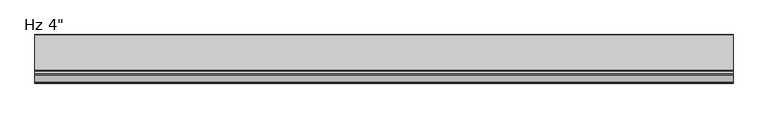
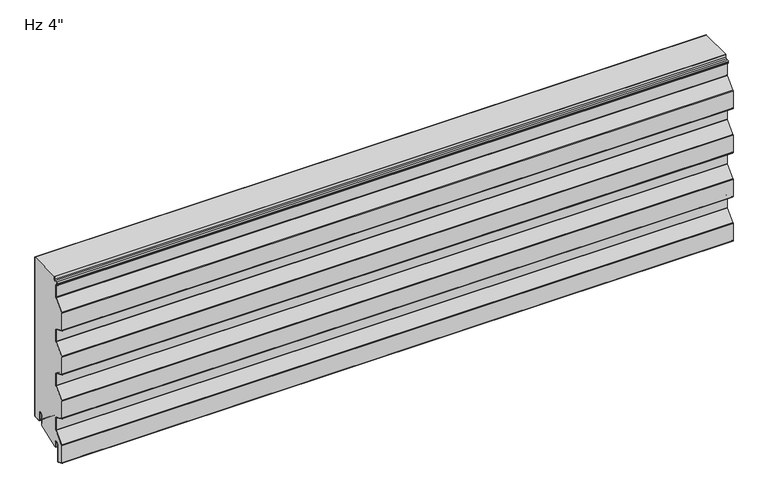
"""IFC4 building model written with IfcOpenShell, lengths in millimetres: plate geometry."""

from ifc_helpers import new_model, si_unit, point, frame, frame_2d, origin, place, context, project, spatial, polyline, circle_curve, trimmed, segment, composite_curve, outline, extrude, source, transform, mapped, element, save


def plate_639d0140(model_context):
    return source(origin(), model_context, "Body", "SweptSolid", [
        extrude(outline(composite_curve([segment(polyline([(-26.4011912, 19.05), (-26.4011912, -3.1976612), (-74.633822, -23.01875), (-76.7886912, -23.01875), (-76.7886912, -11.90625)]), True, "CONTINUOUS"), segment(trimmed(circle_curve(frame_2d((-81.7574412, -11.90625)), 4.96875), [point((-76.7886912, -11.90625))], [point((-86.7261912, -11.90625))], True, "CARTESIAN"), True, "CONTINUOUS"), segment(polyline([(-86.7261912, -11.90625), (-86.7261912, -48.8194049)]), True, "CONTINUOUS"), segment(trimmed(circle_curve(frame_2d((-88.1074412, -48.8194049)), 1.38125), [point((-86.7261912, -48.8194049))], [point((-88.6666208, -50.0824052))], False, "CARTESIAN"), True, "CONTINUOUS"), segment(polyline([(-88.6666208, -50.0824052), (-99.7779296, -45.1629946)]), True, "CONTINUOUS"), segment(trimmed(circle_curve(frame_2d((-99.21875, -43.8999943)), 1.38125), [point((-99.7779296, -45.1629946))], [point((-100.6, -43.8999943))], False, "CARTESIAN"), True, "CONTINUOUS"), segment(polyline([(-100.6, -43.8999943), (-100.6, -5.0536946)]), True, "CONTINUOUS"), segment(trimmed(circle_curve(frame_2d((-98.5012, -5.0536946)), 2.0988), [point((-100.6, -5.0536946))], [point((-100.0092077, -3.5939431))], False, "CARTESIAN"), True, "CONTINUOUS"), segment(polyline([(-100.0092077, -3.5939431), (-79.8145567, 17.2682996)]), True, "CONTINUOUS"), segment(trimmed(circle_curve(frame_2d((-81.6737, 19.0679503)), 2.5875), [point((-79.8145567, 17.2682996))], [point((-79.0862, 19.0679503))], True, "CARTESIAN"), True, "CONTINUOUS"), segment(polyline([(-79.0862, 19.0679503), (-79.0862, 45.5917981)]), True, "CONTINUOUS"), segment(trimmed(circle_curve(frame_2d((-81.6737, 45.5917981)), 2.5875), [point((-79.0862, 45.5917981))], [point((-80.6261871, 47.9577806))], True, "CARTESIAN"), True, "CONTINUOUS"), segment(polyline([(-80.6261871, 47.9577806), (-99.7779296, 56.4370054)]), True, "CONTINUOUS"), segment(trimmed(circle_curve(frame_2d((-99.21875, 57.7000057)), 1.38125), [point((-99.7779296, 56.4370054))], [point((-100.6, 57.7000057))], False, "CARTESIAN"), True, "CONTINUOUS"), segment(polyline([(-100.6, 57.7000057), (-100.6, 96.8367131)]), True, "CONTINUOUS"), segment(trimmed(circle_curve(frame_2d((-99.21875, 96.8367131)), 1.38125), [point((-100.6, 96.8367131))], [point((-100.2111912, 97.7973962))], False, "CARTESIAN"), True, "CONTINUOUS"), segment(polyline([(-100.2111912, 97.7973962), (-79.8145567, 118.8682996)]), True, "CONTINUOUS"), segment(trimmed(circle_curve(frame_2d((-81.6737, 120.6679503)), 2.5875), [point((-79.8145567, 118.8682996))], [point((-79.0862, 120.6679503))], True, "CARTESIAN"), True, "CONTINUOUS"), segment(polyline([(-79.0862, 120.6679503), (-79.0862, 147.1917981)]), True, "CONTINUOUS"), segment(trimmed(circle_curve(frame_2d((-81.6737, 147.1917981)), 2.5875), [point((-79.0862, 147.1917981))], [point((-80.6261871, 149.5577806))], True, "CARTESIAN"), True, "CONTINUOUS"), segment(polyline([(-80.6261871, 149.5577806), (-99.7779296, 158.0370054)]), True, "CONTINUOUS"), segment(trimmed(circle_curve(frame_2d((-99.21875, 159.3000057)), 1.38125), [point((-99.7779296, 158.0370054))], [point((-100.6, 159.3000057))], False, "CARTESIAN"), True, "CONTINUOUS"), segment(polyline([(-100.6, 159.3000057), (-100.6, 198.4367131)]), True, "CONTINUOUS"), segment(trimmed(circle_curve(frame_2d((-99.21875, 198.4367131)), 1.38125), [point((-100.6, 198.4367131))], [point((-100.2111912, 199.3973962))], False, "CARTESIAN"), True, "CONTINUOUS"), segment(polyline([(-100.2111912, 199.3973962), (-79.8145567, 220.4682996)]), True, "CONTINUOUS"), segment(trimmed(circle_curve(frame_2d((-81.6737, 222.2679503)), 2.5875), [point((-79.8145567, 220.4682996))], [point((-79.0862, 222.2679503))], True, "CARTESIAN"), True, "CONTINUOUS"), segment(polyline([(-79.0862, 222.2679503), (-79.0862, 248.7917981)]), True, "CONTINUOUS"), segment(trimmed(circle_curve(frame_2d((-81.6737, 248.7917981)), 2.5875), [point((-79.0862, 248.7917981))], [point((-80.6261871, 251.1577806))], True, "CARTESIAN"), True, "CONTINUOUS"), segment(polyline([(-80.6261871, 251.1577806), (-99.7779296, 259.6370054)]), True, "CONTINUOUS"), segment(trimmed(circle_curve(frame_2d((-99.21875, 260.9000057)), 1.38125), [point((-99.7779296, 259.6370054))], [point((-100.6, 260.9000057))], False, "CARTESIAN"), True, "CONTINUOUS"), segment(polyline([(-100.6, 260.9000057), (-100.6, 300.0367131)]), True, "CONTINUOUS"), segment(trimmed(circle_curve(frame_2d((-99.21875, 300.0367131)), 1.38125), [point((-100.6, 300.0367131))], [point((-100.2111912, 300.9973962))], False, "CARTESIAN"), True, "CONTINUOUS"), segment(polyline([(-100.2111912, 300.9973962), (-79.8145567, 322.0682996)]), True, "CONTINUOUS"), segment(trimmed(circle_curve(frame_2d((-81.6737, 323.8679503)), 2.5875), [point((-79.8145567, 322.0682996))], [point((-79.0862, 323.8679503))], True, "CARTESIAN"), True, "CONTINUOUS"), segment(polyline([(-79.0862, 323.8679503), (-79.0862, 350.3917981)]), True, "CONTINUOUS"), segment(trimmed(circle_curve(frame_2d((-81.6737, 350.3917981)), 2.5875), [point((-79.0862, 350.3917981))], [point((-80.6261871, 352.7577806))], True, "CARTESIAN"), True, "CONTINUOUS"), segment(polyline([(-80.6261871, 352.7577806), (-82.3166208, 353.5062016)]), True, "CONTINUOUS"), segment(trimmed(circle_curve(frame_2d((-81.7574412, 354.7692019)), 1.38125), [point((-82.3166208, 353.5062016))], [point((-83.1386912, 354.7692019))], False, "CARTESIAN"), True, "CONTINUOUS"), segment(polyline([(-83.1386912, 354.7692019), (-83.1386912, 357.0967085)]), True, "CONTINUOUS"), segment(trimmed(circle_curve(frame_2d((-81.7574412, 357.0967085)), 1.38125), [point((-83.1386912, 357.0967085))], [point((-81.8297302, 358.4760655))], False, "CARTESIAN"), True, "CONTINUOUS"), segment(polyline([(-81.8297302, 358.4760655), (-76.0657719, 358.7781418)]), True, "CONTINUOUS"), segment(trimmed(circle_curve(frame_2d((-76.2011912, 361.3620957)), 2.5875), [point((-76.0657719, 358.7781418))], [point((-73.6136912, 361.3620957))], True, "CARTESIAN"), True, "CONTINUOUS"), segment(polyline([(-73.6136912, 361.3620957), (-73.6136912, 368.0), (-1.0011912, 368.0), (-1.0011912, 3.175)]), True, "CONTINUOUS"), segment(trimmed(circle_curve(frame_2d((-2.3824412, 3.175)), 1.38125), [point((-1.0011912, 3.175))], [point((-2.3824412, 1.79375))], False, "CARTESIAN"), True, "CONTINUOUS"), segment(polyline([(-2.3824412, 1.79375), (-15.0824412, 1.79375)]), True, "CONTINUOUS"), segment(trimmed(circle_curve(frame_2d((-15.0824412, 3.175)), 1.38125), [point((-15.0824412, 1.79375))], [point((-16.4636912, 3.175))], False, "CARTESIAN"), True, "CONTINUOUS"), segment(polyline([(-16.4636912, 3.175), (-16.4636912, 19.05)]), True, "CONTINUOUS"), segment(trimmed(circle_curve(frame_2d((-21.4324412, 19.05)), 4.96875), [point((-16.4636912, 19.05))], [point((-26.4011912, 19.05))], True, "CARTESIAN"), True, "CONTINUOUS")], self_intersect=False)), frame((-730.0, 0.0, 0.0), z_axis=(1.0, 0.0, 0.0), x_axis=(0.0, 1.0, 0.0)), (0.0, 0.0, 1.0), 1460.0),
        extrude(outline(composite_curve([segment(polyline([(-25.4, 0.79375), (-26.4, 0.79375), (-26.4, 19.05)]), True, "CONTINUOUS"), segment(trimmed(circle_curve(frame_2d((-21.43125, 19.05)), 4.96875), [point((-26.4, 19.05))], [point((-16.4625, 19.05))], False, "CARTESIAN"), True, "CONTINUOUS"), segment(polyline([(-16.4625, 19.05), (-16.4625, 3.175)]), True, "CONTINUOUS"), segment(trimmed(circle_curve(frame_2d((-15.08125, 3.175)), 1.38125), [point((-16.4625, 3.175))], [point((-15.08125, 1.79375))], True, "CARTESIAN"), True, "CONTINUOUS"), segment(polyline([(-15.08125, 1.79375), (-2.38125, 1.79375)]), True, "CONTINUOUS"), segment(trimmed(circle_curve(frame_2d((-2.38125, 3.175)), 1.38125), [point((-2.38125, 1.79375))], [point((-1.0, 3.175))], True, "CARTESIAN"), True, "CONTINUOUS"), segment(polyline([(-1.0, 3.175), (-1.0, 368.0), (0.0, 368.0), (0.0, 3.175)]), True, "CONTINUOUS"), segment(trimmed(circle_curve(frame_2d((-2.38125, 3.175)), 2.38125), [point((0.0, 3.175))], [point((-2.38125, 0.79375))], False, "CARTESIAN"), True, "CONTINUOUS"), segment(polyline([(-2.38125, 0.79375), (-15.08125, 0.79375)]), True, "CONTINUOUS"), segment(trimmed(circle_curve(frame_2d((-15.08125, 3.175)), 2.38125), [point((-15.08125, 0.79375))], [point((-17.4625, 3.175))], False, "CARTESIAN"), True, "CONTINUOUS"), segment(polyline([(-17.4625, 3.175), (-17.4625, 19.05)]), True, "CONTINUOUS"), segment(trimmed(circle_curve(frame_2d((-21.43125, 19.05)), 3.96875), [point((-17.4625, 19.05))], [point((-25.4, 19.05))], True, "CARTESIAN"), True, "CONTINUOUS"), segment(polyline([(-25.4, 19.05), (-25.4, 0.79375)]), True, "CONTINUOUS")], self_intersect=False)), frame((-730.0, 0.0, 0.0), z_axis=(1.0, 0.0, 0.0), x_axis=(0.0, 1.0, 0.0)), (0.0, 0.0, 1.0), 1460.0),
        extrude(outline(composite_curve([segment(polyline([(-85.7261912, -11.90625), (-85.7261912, -48.8194049)]), True, "CONTINUOUS"), segment(trimmed(circle_curve(frame_2d((-88.1074412, -48.8194049)), 2.38125), [point((-85.7261912, -48.8194049))], [point((-89.0714567, -50.9967946))], False, "CARTESIAN"), True, "CONTINUOUS"), segment(polyline([(-89.0714567, -50.9967946), (-100.1827655, -46.0773839)]), True, "CONTINUOUS"), segment(trimmed(circle_curve(frame_2d((-99.21875, -43.8999943)), 2.38125), [point((-100.1827655, -46.0773839))], [point((-101.6, -43.8999943))], False, "CARTESIAN"), True, "CONTINUOUS"), segment(polyline([(-101.6, -43.8999943), (-101.6, -5.0536946)]), True, "CONTINUOUS"), segment(trimmed(circle_curve(frame_2d((-98.5012, -5.0536946)), 3.0988), [point((-101.6, -5.0536946))], [point((-100.7277172, -2.8984259))], False, "CARTESIAN"), True, "CONTINUOUS"), segment(polyline([(-100.7277172, -2.8984259), (-80.5330662, 17.9638168)]), True, "CONTINUOUS"), segment(trimmed(circle_curve(frame_2d((-81.6737, 19.0679503)), 1.5875), [point((-80.5330662, 17.9638168))], [point((-80.0862, 19.0679503))], True, "CARTESIAN"), True, "CONTINUOUS"), segment(polyline([(-80.0862, 19.0679503), (-80.0862, 45.5917981)]), True, "CONTINUOUS"), segment(trimmed(circle_curve(frame_2d((-81.6737, 45.5917981)), 1.5875), [point((-80.0862, 45.5917981))], [point((-81.031023, 47.0433912))], True, "CARTESIAN"), True, "CONTINUOUS"), segment(polyline([(-81.031023, 47.0433912), (-100.1827655, 55.5226161)]), True, "CONTINUOUS"), segment(trimmed(circle_curve(frame_2d((-99.21875, 57.7000057)), 2.38125), [point((-100.1827655, 55.5226161))], [point((-101.6, 57.7000057))], False, "CARTESIAN"), True, "CONTINUOUS"), segment(polyline([(-101.6, 57.7000057), (-101.6, 96.8367131)]), True, "CONTINUOUS"), segment(trimmed(circle_curve(frame_2d((-99.21875, 96.8367131)), 2.38125), [point((-101.6, 96.8367131))], [point((-100.9297007, 98.4929134))], False, "CARTESIAN"), True, "CONTINUOUS"), segment(polyline([(-100.9297007, 98.4929134), (-80.5330662, 119.5638168)]), True, "CONTINUOUS"), segment(trimmed(circle_curve(frame_2d((-81.6737, 120.6679503)), 1.5875), [point((-80.5330662, 119.5638168))], [point((-80.0862, 120.6679503))], True, "CARTESIAN"), True, "CONTINUOUS"), segment(polyline([(-80.0862, 120.6679503), (-80.0862, 147.1917981)]), True, "CONTINUOUS"), segment(trimmed(circle_curve(frame_2d((-81.6737, 147.1917981)), 1.5875), [point((-80.0862, 147.1917981))], [point((-81.031023, 148.6433912))], True, "CARTESIAN"), True, "CONTINUOUS"), segment(polyline([(-81.031023, 148.6433912), (-100.1827655, 157.1226161)]), True, "CONTINUOUS"), segment(trimmed(circle_curve(frame_2d((-99.21875, 159.3000057)), 2.38125), [point((-100.1827655, 157.1226161))], [point((-101.6, 159.3000057))], False, "CARTESIAN"), True, "CONTINUOUS"), segment(polyline([(-101.6, 159.3000057), (-101.6, 198.4367131)]), True, "CONTINUOUS"), segment(trimmed(circle_curve(frame_2d((-99.21875, 198.4367131)), 2.38125), [point((-101.6, 198.4367131))], [point((-100.9297007, 200.0929134))], False, "CARTESIAN"), True, "CONTINUOUS"), segment(polyline([(-100.9297007, 200.0929134), (-80.5330662, 221.1638168)]), True, "CONTINUOUS"), segment(trimmed(circle_curve(frame_2d((-81.6737, 222.2679503)), 1.5875), [point((-80.5330662, 221.1638168))], [point((-80.0862, 222.2679503))], True, "CARTESIAN"), True, "CONTINUOUS"), segment(polyline([(-80.0862, 222.2679503), (-80.0862, 248.7917981)]), True, "CONTINUOUS"), segment(trimmed(circle_curve(frame_2d((-81.6737, 248.7917981)), 1.5875), [point((-80.0862, 248.7917981))], [point((-81.031023, 250.2433912))], True, "CARTESIAN"), True, "CONTINUOUS"), segment(polyline([(-81.031023, 250.2433912), (-100.1827655, 258.7226161)]), True, "CONTINUOUS"), segment(trimmed(circle_curve(frame_2d((-99.21875, 260.9000057)), 2.38125), [point((-100.1827655, 258.7226161))], [point((-101.6, 260.9000057))], False, "CARTESIAN"), True, "CONTINUOUS"), segment(polyline([(-101.6, 260.9000057), (-101.6, 300.0367131)]), True, "CONTINUOUS"), segment(trimmed(circle_curve(frame_2d((-99.21875, 300.0367131)), 2.38125), [point((-101.6, 300.0367131))], [point((-100.9297007, 301.6929134))], False, "CARTESIAN"), True, "CONTINUOUS"), segment(polyline([(-100.9297007, 301.6929134), (-80.5330662, 322.7638168)]), True, "CONTINUOUS"), segment(trimmed(circle_curve(frame_2d((-81.6737, 323.8679503)), 1.5875), [point((-80.5330662, 322.7638168))], [point((-80.0862, 323.8679503))], True, "CARTESIAN"), True, "CONTINUOUS"), segment(polyline([(-80.0862, 323.8679503), (-80.0862, 350.3917981)]), True, "CONTINUOUS"), segment(trimmed(circle_curve(frame_2d((-81.6737, 350.3917981)), 1.5875), [point((-80.0862, 350.3917981))], [point((-81.031023, 351.8433912))], True, "CARTESIAN"), True, "CONTINUOUS"), segment(polyline([(-81.031023, 351.8433912), (-82.7214567, 352.5918123)]), True, "CONTINUOUS"), segment(trimmed(circle_curve(frame_2d((-81.7574412, 354.7692019)), 2.38125), [point((-82.7214567, 352.5918123))], [point((-84.1386912, 354.7692019))], False, "CARTESIAN"), True, "CONTINUOUS"), segment(polyline([(-84.1386912, 354.7692019), (-84.1386912, 357.0967085)]), True, "CONTINUOUS"), segment(trimmed(circle_curve(frame_2d((-81.7574412, 357.0967085)), 2.38125), [point((-84.1386912, 357.0967085))], [point((-81.8820662, 359.4746951))], False, "CARTESIAN"), True, "CONTINUOUS"), segment(polyline([(-81.8820662, 359.4746951), (-76.1181078, 359.7767713)]), True, "CONTINUOUS"), segment(trimmed(circle_curve(frame_2d((-76.2011912, 361.3620957)), 1.5875), [point((-76.1181078, 359.7767713))], [point((-74.6136912, 361.3620957))], True, "CARTESIAN"), True, "CONTINUOUS"), segment(polyline([(-74.6136912, 361.3620957), (-74.6136912, 368.0), (-73.6136912, 368.0), (-73.6136912, 361.3620957)]), True, "CONTINUOUS"), segment(trimmed(circle_curve(frame_2d((-76.2011912, 361.3620957)), 2.5875), [point((-73.6136912, 361.3620957))], [point((-76.0657719, 358.7781418))], False, "CARTESIAN"), True, "CONTINUOUS"), segment(polyline([(-76.0657719, 358.7781418), (-81.8297302, 358.4760655)]), True, "CONTINUOUS"), segment(trimmed(circle_curve(frame_2d((-81.7574412, 357.0967085)), 1.38125), [point((-81.8297302, 358.4760655))], [point((-83.1386912, 357.0967085))], True, "CARTESIAN"), True, "CONTINUOUS"), segment(polyline([(-83.1386912, 357.0967085), (-83.1386912, 354.7692019)]), True, "CONTINUOUS"), segment(trimmed(circle_curve(frame_2d((-81.7574412, 354.7692019)), 1.38125), [point((-83.1386912, 354.7692019))], [point((-82.3166208, 353.5062016))], True, "CARTESIAN"), True, "CONTINUOUS"), segment(polyline([(-82.3166208, 353.5062016), (-80.6261871, 352.7577806)]), True, "CONTINUOUS"), segment(trimmed(circle_curve(frame_2d((-81.6737, 350.3917981)), 2.5875), [point((-80.6261871, 352.7577806))], [point((-79.0862, 350.3917981))], False, "CARTESIAN"), True, "CONTINUOUS"), segment(polyline([(-79.0862, 350.3917981), (-79.0862, 323.8679503)]), True, "CONTINUOUS"), segment(trimmed(circle_curve(frame_2d((-81.6737, 323.8679503)), 2.5875), [point((-79.0862, 323.8679503))], [point((-79.8145567, 322.0682996))], False, "CARTESIAN"), True, "CONTINUOUS"), segment(polyline([(-79.8145567, 322.0682996), (-100.2111912, 300.9973962)]), True, "CONTINUOUS"), segment(trimmed(circle_curve(frame_2d((-99.21875, 300.0367131)), 1.38125), [point((-100.2111912, 300.9973962))], [point((-100.6, 300.0367131))], True, "CARTESIAN"), True, "CONTINUOUS"), segment(polyline([(-100.6, 300.0367131), (-100.6, 260.9000057)]), True, "CONTINUOUS"), segment(trimmed(circle_curve(frame_2d((-99.21875, 260.9000057)), 1.38125), [point((-100.6, 260.9000057))], [point((-99.7779296, 259.6370054))], True, "CARTESIAN"), True, "CONTINUOUS"), segment(polyline([(-99.7779296, 259.6370054), (-80.6261871, 251.1577806)]), True, "CONTINUOUS"), segment(trimmed(circle_curve(frame_2d((-81.6737, 248.7917981)), 2.5875), [point((-80.6261871, 251.1577806))], [point((-79.0862, 248.7917981))], False, "CARTESIAN"), True, "CONTINUOUS"), segment(polyline([(-79.0862, 248.7917981), (-79.0862, 222.2679503)]), True, "CONTINUOUS"), segment(trimmed(circle_curve(frame_2d((-81.6737, 222.2679503)), 2.5875), [point((-79.0862, 222.2679503))], [point((-79.8145567, 220.4682996))], False, "CARTESIAN"), True, "CONTINUOUS"), segment(polyline([(-79.8145567, 220.4682996), (-100.2111912, 199.3973962)]), True, "CONTINUOUS"), segment(trimmed(circle_curve(frame_2d((-99.21875, 198.4367131)), 1.38125), [point((-100.2111912, 199.3973962))], [point((-100.6, 198.4367131))], True, "CARTESIAN"), True, "CONTINUOUS"), segment(polyline([(-100.6, 198.4367131), (-100.6, 159.3000057)]), True, "CONTINUOUS"), segment(trimmed(circle_curve(frame_2d((-99.21875, 159.3000057)), 1.38125), [point((-100.6, 159.3000057))], [point((-99.7779296, 158.0370054))], True, "CARTESIAN"), True, "CONTINUOUS"), segment(polyline([(-99.7779296, 158.0370054), (-80.6261871, 149.5577806)]), True, "CONTINUOUS"), segment(trimmed(circle_curve(frame_2d((-81.6737, 147.1917981)), 2.5875), [point((-80.6261871, 149.5577806))], [point((-79.0862, 147.1917981))], False, "CARTESIAN"), True, "CONTINUOUS"), segment(polyline([(-79.0862, 147.1917981), (-79.0862, 120.6679503)]), True, "CONTINUOUS"), segment(trimmed(circle_curve(frame_2d((-81.6737, 120.6679503)), 2.5875), [point((-79.0862, 120.6679503))], [point((-79.8145567, 118.8682996))], False, "CARTESIAN"), True, "CONTINUOUS"), segment(polyline([(-79.8145567, 118.8682996), (-100.2111912, 97.7973962)]), True, "CONTINUOUS"), segment(trimmed(circle_curve(frame_2d((-99.21875, 96.8367131)), 1.38125), [point((-100.2111912, 97.7973962))], [point((-100.6, 96.8367131))], True, "CARTESIAN"), True, "CONTINUOUS"), segment(polyline([(-100.6, 96.8367131), (-100.6, 57.7000057)]), True, "CONTINUOUS"), segment(trimmed(circle_curve(frame_2d((-99.21875, 57.7000057)), 1.38125), [point((-100.6, 57.7000057))], [point((-99.7779296, 56.4370054))], True, "CARTESIAN"), True, "CONTINUOUS"), segment(polyline([(-99.7779296, 56.4370054), (-80.6261871, 47.9577806)]), True, "CONTINUOUS"), segment(trimmed(circle_curve(frame_2d((-81.6737, 45.5917981)), 2.5875), [point((-80.6261871, 47.9577806))], [point((-79.0862, 45.5917981))], False, "CARTESIAN"), True, "CONTINUOUS"), segment(polyline([(-79.0862, 45.5917981), (-79.0862, 19.0679503)]), True, "CONTINUOUS"), segment(trimmed(circle_curve(frame_2d((-81.6737, 19.0679503)), 2.5875), [point((-79.0862, 19.0679503))], [point((-79.8145567, 17.2682996))], False, "CARTESIAN"), True, "CONTINUOUS"), segment(polyline([(-79.8145567, 17.2682996), (-100.0092077, -3.5939431)]), True, "CONTINUOUS"), segment(trimmed(circle_curve(frame_2d((-98.5012, -5.0536946)), 2.0988), [point((-100.0092077, -3.5939431))], [point((-100.6, -5.0536946))], True, "CARTESIAN"), True, "CONTINUOUS"), segment(polyline([(-100.6, -5.0536946), (-100.6, -43.8999943)]), True, "CONTINUOUS"), segment(trimmed(circle_curve(frame_2d((-99.21875, -43.8999943)), 1.38125), [point((-100.6, -43.8999943))], [point((-99.7779296, -45.1629946))], True, "CARTESIAN"), True, "CONTINUOUS"), segment(polyline([(-99.7779296, -45.1629946), (-88.6666208, -50.0824052)]), True, "CONTINUOUS"), segment(trimmed(circle_curve(frame_2d((-88.1074412, -48.8194049)), 1.38125), [point((-88.6666208, -50.0824052))], [point((-86.7261912, -48.8194049))], True, "CARTESIAN"), True, "CONTINUOUS"), segment(polyline([(-86.7261912, -48.8194049), (-86.7261912, -11.90625)]), True, "CONTINUOUS"), segment(trimmed(circle_curve(frame_2d((-81.7574412, -11.90625)), 4.96875), [point((-86.7261912, -11.90625))], [point((-76.7886912, -11.90625))], False, "CARTESIAN"), True, "CONTINUOUS"), segment(polyline([(-76.7886912, -11.90625), (-76.7886912, -23.01875), (-77.7886912, -23.01875), (-77.7886912, -11.90625)]), True, "CONTINUOUS"), segment(trimmed(circle_curve(frame_2d((-81.7574412, -11.90625)), 3.96875), [point((-77.7886912, -11.90625))], [point((-85.7261912, -11.90625))], True, "CARTESIAN"), True, "CONTINUOUS")], self_intersect=False)), frame((-730.0, 0.0, 0.0), z_axis=(1.0, 0.0, 0.0), x_axis=(0.0, 1.0, 0.0)), (0.0, 0.0, 1.0), 1460.0),
    ])


if __name__ == "__main__":
    model = new_model("IFC4")
    model_context = context("Model", 3, world=origin())
    ifc_project = project(units=[si_unit("LENGTHUNIT", "METRE", prefix="MILLI")], contexts=[model_context])
    site = spatial("IfcSite", under=ifc_project)
    building = spatial("IfcBuilding", under=site)
    placement = place(None, origin())
    plate_shape = plate_639d0140(model_context)
    element("IfcPlate", 1, ObjectType="KIP-16-DWR-R19-CP-Hz-S : Hz 4\"", at=placement, inside=building, context=model_context, shape_type="MappedRepresentation", body=[
        mapped(plate_shape, transform((0.0, 0.0, 0.0), x_axis=(1.0, 0.0, 0.0), y_axis=(0.0, 1.0, 0.0), z_axis=(0.0, 0.0, 1.0))),
    ])
    save(model, "model.ifc")
